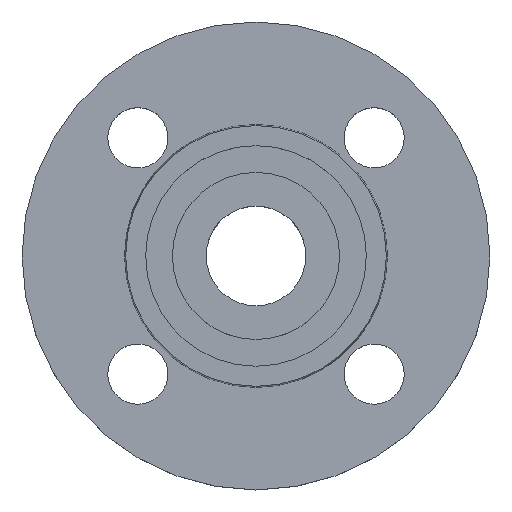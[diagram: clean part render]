
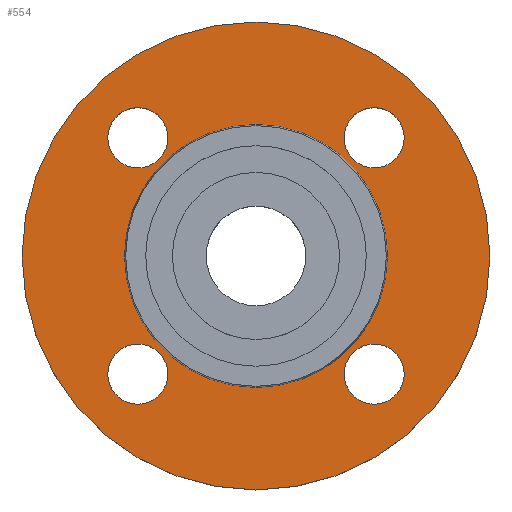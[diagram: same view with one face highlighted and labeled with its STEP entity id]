
A CAD part, top view. The second image highlights one B-rep face of the part: STEP entity #554.
In plain terms, the highlighted planar face has unit normal (0, 0, 1).
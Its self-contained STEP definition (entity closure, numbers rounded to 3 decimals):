
#23 = CARTESIAN_POINT ( 'NONE',  ( -35.355, 35.355, -2. ) ) ;
#33 = FACE_BOUND ( 'NONE', #650, .T. ) ;
#35 = CIRCLE ( 'NONE', #551, 9. ) ;
#52 = EDGE_LOOP ( 'NONE', ( #106, #273 ) ) ;
#59 = VERTEX_POINT ( 'NONE', #239 ) ;
#60 = CARTESIAN_POINT ( 'NONE',  ( 35.355, 35.355, -2. ) ) ;
#65 = VERTEX_POINT ( 'NONE', #371 ) ;
#66 = CARTESIAN_POINT ( 'NONE',  ( -35.355, 35.355, -2. ) ) ;
#67 = VERTEX_POINT ( 'NONE', #640 ) ;
#69 = ORIENTED_EDGE ( 'NONE', *, *, #235, .T. ) ;
#70 = EDGE_CURVE ( 'NONE', #724, #65, #319, .T. ) ;
#76 = CARTESIAN_POINT ( 'NONE',  ( -35.355, -35.355, -2. ) ) ;
#86 = CIRCLE ( 'NONE', #592, 70. ) ;
#89 = DIRECTION ( 'NONE',  ( 1., 0., 0. ) ) ;
#99 = DIRECTION ( 'NONE',  ( 1., 0., 0. ) ) ;
#106 = ORIENTED_EDGE ( 'NONE', *, *, #769, .T. ) ;
#135 = CARTESIAN_POINT ( 'NONE',  ( -70., 0., -2. ) ) ;
#147 = VERTEX_POINT ( 'NONE', #193 ) ;
#155 = EDGE_CURVE ( 'NONE', #147, #718, #336, .T. ) ;
#168 = EDGE_CURVE ( 'NONE', #718, #147, #496, .T. ) ;
#175 = CIRCLE ( 'NONE', #671, 9. ) ;
#188 = EDGE_CURVE ( 'NONE', #65, #724, #424, .T. ) ;
#191 = CARTESIAN_POINT ( 'NONE',  ( 39.353, 0., -2. ) ) ;
#193 = CARTESIAN_POINT ( 'NONE',  ( 44.355, 35.355, -2. ) ) ;
#196 = CIRCLE ( 'NONE', #579, 9. ) ;
#200 = EDGE_CURVE ( 'NONE', #758, #844, #196, .T. ) ;
#203 = DIRECTION ( 'NONE',  ( 0., 0., -1. ) ) ;
#205 = DIRECTION ( 'NONE',  ( -1., 0., 0. ) ) ;
#206 = EDGE_LOOP ( 'NONE', ( #216, #211 ) ) ;
#211 = ORIENTED_EDGE ( 'NONE', *, *, #669, .F. ) ;
#216 = ORIENTED_EDGE ( 'NONE', *, *, #777, .F. ) ;
#217 = AXIS2_PLACEMENT_3D ( 'NONE', #23, #306, #581 ) ;
#220 = DIRECTION ( 'NONE',  ( 0., 0., -1. ) ) ;
#221 = ORIENTED_EDGE ( 'NONE', *, *, #168, .T. ) ;
#235 = EDGE_CURVE ( 'NONE', #67, #598, #879, .T. ) ;
#236 = AXIS2_PLACEMENT_3D ( 'NONE', #191, #462, #727 ) ;
#239 = CARTESIAN_POINT ( 'NONE',  ( 39.353, 0., -2. ) ) ;
#245 = ORIENTED_EDGE ( 'NONE', *, *, #188, .T. ) ;
#255 = CARTESIAN_POINT ( 'NONE',  ( 26.355, 35.355, -2. ) ) ;
#257 = FACE_BOUND ( 'NONE', #52, .T. ) ;
#270 = DIRECTION ( 'NONE',  ( 0., 0., -1. ) ) ;
#273 = ORIENTED_EDGE ( 'NONE', *, *, #694, .T. ) ;
#276 = DIRECTION ( 'NONE',  ( 0., 0., -1. ) ) ;
#294 = VERTEX_POINT ( 'NONE', #630 ) ;
#306 = DIRECTION ( 'NONE',  ( 0., 0., -1. ) ) ;
#314 = EDGE_LOOP ( 'NONE', ( #499, #221 ) ) ;
#319 = CIRCLE ( 'NONE', #217, 9. ) ;
#320 = FACE_BOUND ( 'NONE', #348, .T. ) ;
#328 = CARTESIAN_POINT ( 'NONE',  ( 35.355, 35.355, -2. ) ) ;
#336 = CIRCLE ( 'NONE', #714, 9. ) ;
#337 = ORIENTED_EDGE ( 'NONE', *, *, #200, .T. ) ;
#343 = DIRECTION ( 'NONE',  ( 0., 0., -1. ) ) ;
#347 = DIRECTION ( 'NONE',  ( 0., 0., -1. ) ) ;
#348 = EDGE_LOOP ( 'NONE', ( #653, #69 ) ) ;
#354 = EDGE_CURVE ( 'NONE', #598, #67, #175, .T. ) ;
#355 = DIRECTION ( 'NONE',  ( 0., 0., -1. ) ) ;
#371 = CARTESIAN_POINT ( 'NONE',  ( -26.355, 35.355, -2. ) ) ;
#374 = AXIS2_PLACEMENT_3D ( 'NONE', #543, #807, #205 ) ;
#390 = AXIS2_PLACEMENT_3D ( 'NONE', #76, #355, #628 ) ;
#424 = CIRCLE ( 'NONE', #802, 9. ) ;
#431 = EDGE_LOOP ( 'NONE', ( #245, #655 ) ) ;
#435 = CARTESIAN_POINT ( 'NONE',  ( -35.355, -35.355, -2. ) ) ;
#447 = CARTESIAN_POINT ( 'NONE',  ( 35.355, -35.355, -2. ) ) ;
#457 = EDGE_CURVE ( 'NONE', #844, #758, #35, .T. ) ;
#462 = DIRECTION ( 'NONE',  ( 0., 0., 1. ) ) ;
#476 = DIRECTION ( 'NONE',  ( -1., 0., 0. ) ) ;
#484 = AXIS2_PLACEMENT_3D ( 'NONE', #866, #270, #541 ) ;
#489 = DIRECTION ( 'NONE',  ( 1., 0., 0. ) ) ;
#495 = CIRCLE ( 'NONE', #608, 39.353 ) ;
#496 = CIRCLE ( 'NONE', #763, 9. ) ;
#499 = ORIENTED_EDGE ( 'NONE', *, *, #155, .T. ) ;
#527 = FACE_OUTER_BOUND ( 'NONE', #206, .T. ) ;
#541 = DIRECTION ( 'NONE',  ( -1., 0., 0. ) ) ;
#543 = CARTESIAN_POINT ( 'NONE',  ( 0., 0., -2. ) ) ;
#547 = DIRECTION ( 'NONE',  ( -1., 0., 0. ) ) ;
#551 = AXIS2_PLACEMENT_3D ( 'NONE', #447, #710, #99 ) ;
#554 = ADVANCED_FACE ( 'NONE', ( #33, #320, #595, #852, #257, #527 ), #795, .T. ) ;
#579 = AXIS2_PLACEMENT_3D ( 'NONE', #819, #220, #489 ) ;
#581 = DIRECTION ( 'NONE',  ( 1., 0., 0. ) ) ;
#592 = AXIS2_PLACEMENT_3D ( 'NONE', #806, #203, #476 ) ;
#595 = FACE_BOUND ( 'NONE', #431, .T. ) ;
#598 = VERTEX_POINT ( 'NONE', #665 ) ;
#603 = DIRECTION ( 'NONE',  ( 0., 0., -1. ) ) ;
#608 = AXIS2_PLACEMENT_3D ( 'NONE', #871, #276, #547 ) ;
#616 = DIRECTION ( 'NONE',  ( 1., 0., 0. ) ) ;
#620 = DIRECTION ( 'NONE',  ( 1., 0., 0. ) ) ;
#628 = DIRECTION ( 'NONE',  ( 1., 0., 0. ) ) ;
#630 = CARTESIAN_POINT ( 'NONE',  ( 70., 0., -2. ) ) ;
#640 = CARTESIAN_POINT ( 'NONE',  ( -44.355, -35.355, -2. ) ) ;
#650 = EDGE_LOOP ( 'NONE', ( #823, #337 ) ) ;
#653 = ORIENTED_EDGE ( 'NONE', *, *, #354, .T. ) ;
#655 = ORIENTED_EDGE ( 'NONE', *, *, #70, .T. ) ;
#665 = CARTESIAN_POINT ( 'NONE',  ( -26.355, -35.355, -2. ) ) ;
#669 = EDGE_CURVE ( 'NONE', #846, #294, #762, .T. ) ;
#671 = AXIS2_PLACEMENT_3D ( 'NONE', #435, #703, #89 ) ;
#694 = EDGE_CURVE ( 'NONE', #59, #752, #495, .T. ) ;
#703 = DIRECTION ( 'NONE',  ( 0., 0., -1. ) ) ;
#710 = DIRECTION ( 'NONE',  ( 0., 0., -1. ) ) ;
#714 = AXIS2_PLACEMENT_3D ( 'NONE', #328, #603, #861 ) ;
#718 = VERTEX_POINT ( 'NONE', #255 ) ;
#724 = VERTEX_POINT ( 'NONE', #794 ) ;
#727 = DIRECTION ( 'NONE',  ( 1., 0., 0. ) ) ;
#736 = CARTESIAN_POINT ( 'NONE',  ( 26.355, -35.355, -2. ) ) ;
#748 = CARTESIAN_POINT ( 'NONE',  ( 44.355, -35.355, -2. ) ) ;
#752 = VERTEX_POINT ( 'NONE', #862 ) ;
#758 = VERTEX_POINT ( 'NONE', #736 ) ;
#762 = CIRCLE ( 'NONE', #374, 70. ) ;
#763 = AXIS2_PLACEMENT_3D ( 'NONE', #60, #343, #616 ) ;
#769 = EDGE_CURVE ( 'NONE', #752, #59, #847, .T. ) ;
#777 = EDGE_CURVE ( 'NONE', #294, #846, #86, .T. ) ;
#794 = CARTESIAN_POINT ( 'NONE',  ( -44.355, 35.355, -2. ) ) ;
#795 = PLANE ( 'NONE',  #236 ) ;
#802 = AXIS2_PLACEMENT_3D ( 'NONE', #66, #347, #620 ) ;
#806 = CARTESIAN_POINT ( 'NONE',  ( 0., 0., -2. ) ) ;
#807 = DIRECTION ( 'NONE',  ( 0., 0., -1. ) ) ;
#819 = CARTESIAN_POINT ( 'NONE',  ( 35.355, -35.355, -2. ) ) ;
#823 = ORIENTED_EDGE ( 'NONE', *, *, #457, .T. ) ;
#844 = VERTEX_POINT ( 'NONE', #748 ) ;
#846 = VERTEX_POINT ( 'NONE', #135 ) ;
#847 = CIRCLE ( 'NONE', #484, 39.353 ) ;
#852 = FACE_BOUND ( 'NONE', #314, .T. ) ;
#861 = DIRECTION ( 'NONE',  ( 1., 0., 0. ) ) ;
#862 = CARTESIAN_POINT ( 'NONE',  ( -39.353, 0., -2. ) ) ;
#866 = CARTESIAN_POINT ( 'NONE',  ( 0., 0., -2. ) ) ;
#871 = CARTESIAN_POINT ( 'NONE',  ( 0., 0., -2. ) ) ;
#879 = CIRCLE ( 'NONE', #390, 9. ) ;
